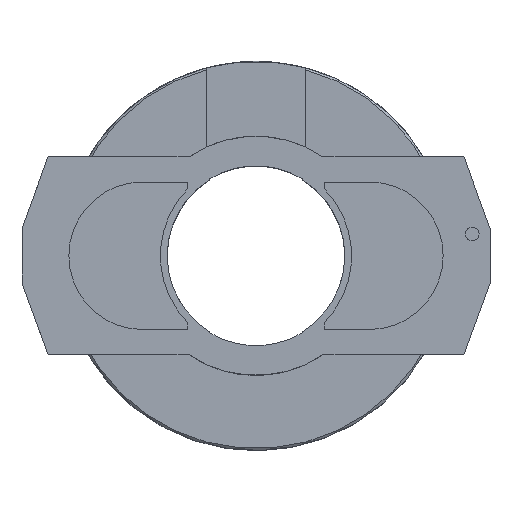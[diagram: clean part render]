
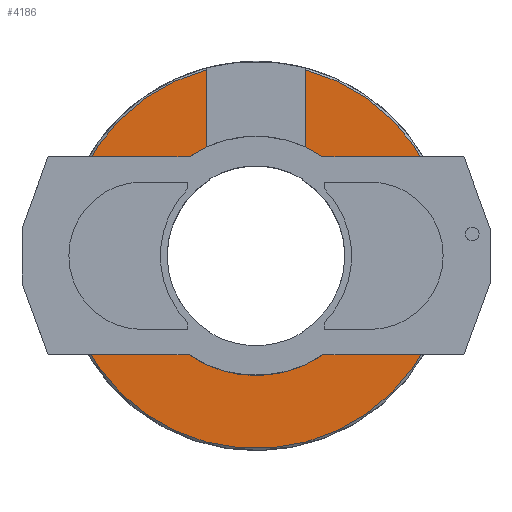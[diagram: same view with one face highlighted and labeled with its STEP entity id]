
A CAD part, top view. The second image highlights one B-rep face of the part: STEP entity #4186.
In plain terms, the highlighted planar face has unit normal (0, 0, 1).
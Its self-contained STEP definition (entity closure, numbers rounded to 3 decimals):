
#776 = PLANE('',#777);
#777 = AXIS2_PLACEMENT_3D('',#778,#779,#780);
#778 = CARTESIAN_POINT('',(7.25,5.,12.));
#779 = DIRECTION('',(1.,0.,-0.));
#780 = DIRECTION('',(0.,0.,1.));
#1295 = CYLINDRICAL_SURFACE('',#1296,17.5);
#1296 = AXIS2_PLACEMENT_3D('',#1297,#1298,#1299);
#1297 = CARTESIAN_POINT('',(0.,0.,13.));
#1298 = DIRECTION('',(0.,0.,1.));
#1299 = DIRECTION('',(1.,0.,-0.));
#1375 = VERTEX_POINT('',#1376);
#1376 = CARTESIAN_POINT('',(-7.25,15.928,13.));
#1392 = PLANE('',#1393);
#1393 = AXIS2_PLACEMENT_3D('',#1394,#1395,#1396);
#1394 = CARTESIAN_POINT('',(-7.25,5.,12.));
#1395 = DIRECTION('',(1.,0.,-0.));
#1396 = DIRECTION('',(0.,0.,1.));
#1404 = EDGE_CURVE('',#1375,#1405,#1407,.T.);
#1405 = VERTEX_POINT('',#1406);
#1406 = CARTESIAN_POINT('',(17.5,0.,13.));
#1407 = SURFACE_CURVE('',#1408,(#1413,#1420),.PCURVE_S1.);
#1408 = CIRCLE('',#1409,17.5);
#1409 = AXIS2_PLACEMENT_3D('',#1410,#1411,#1412);
#1410 = CARTESIAN_POINT('',(0.,0.,13.));
#1411 = DIRECTION('',(0.,0.,1.));
#1412 = DIRECTION('',(1.,0.,-0.));
#1413 = PCURVE('',#1295,#1414);
#1414 = DEFINITIONAL_REPRESENTATION('',(#1415),#1419);
#1415 = LINE('',#1416,#1417);
#1416 = CARTESIAN_POINT('',(0.,0.));
#1417 = VECTOR('',#1418,1.);
#1418 = DIRECTION('',(1.,0.));
#1419 = ( GEOMETRIC_REPRESENTATION_CONTEXT(2) 
PARAMETRIC_REPRESENTATION_CONTEXT() REPRESENTATION_CONTEXT('2D SPACE',''
  ) );
#1420 = PCURVE('',#1421,#1426);
#1421 = PLANE('',#1422);
#1422 = AXIS2_PLACEMENT_3D('',#1423,#1424,#1425);
#1423 = CARTESIAN_POINT('',(0.,0.,13.));
#1424 = DIRECTION('',(0.,0.,1.));
#1425 = DIRECTION('',(1.,0.,-0.));
#1426 = DEFINITIONAL_REPRESENTATION('',(#1427),#1431);
#1427 = CIRCLE('',#1428,17.5);
#1428 = AXIS2_PLACEMENT_2D('',#1429,#1430);
#1429 = CARTESIAN_POINT('',(0.,0.));
#1430 = DIRECTION('',(1.,0.));
#1431 = ( GEOMETRIC_REPRESENTATION_CONTEXT(2) 
PARAMETRIC_REPRESENTATION_CONTEXT() REPRESENTATION_CONTEXT('2D SPACE',''
  ) );
#1689 = EDGE_CURVE('',#1405,#1690,#1692,.T.);
#1690 = VERTEX_POINT('',#1691);
#1691 = CARTESIAN_POINT('',(7.25,15.928,13.));
#1692 = SURFACE_CURVE('',#1693,(#1698,#1705),.PCURVE_S1.);
#1693 = CIRCLE('',#1694,17.5);
#1694 = AXIS2_PLACEMENT_3D('',#1695,#1696,#1697);
#1695 = CARTESIAN_POINT('',(0.,0.,13.));
#1696 = DIRECTION('',(0.,0.,1.));
#1697 = DIRECTION('',(1.,0.,-0.));
#1698 = PCURVE('',#1295,#1699);
#1699 = DEFINITIONAL_REPRESENTATION('',(#1700),#1704);
#1700 = LINE('',#1701,#1702);
#1701 = CARTESIAN_POINT('',(0.,0.));
#1702 = VECTOR('',#1703,1.);
#1703 = DIRECTION('',(1.,0.));
#1704 = ( GEOMETRIC_REPRESENTATION_CONTEXT(2) 
PARAMETRIC_REPRESENTATION_CONTEXT() REPRESENTATION_CONTEXT('2D SPACE',''
  ) );
#1705 = PCURVE('',#1421,#1706);
#1706 = DEFINITIONAL_REPRESENTATION('',(#1707),#1711);
#1707 = CIRCLE('',#1708,17.5);
#1708 = AXIS2_PLACEMENT_2D('',#1709,#1710);
#1709 = CARTESIAN_POINT('',(0.,0.));
#1710 = DIRECTION('',(1.,0.));
#1711 = ( GEOMETRIC_REPRESENTATION_CONTEXT(2) 
PARAMETRIC_REPRESENTATION_CONTEXT() REPRESENTATION_CONTEXT('2D SPACE',''
  ) );
#4186 = ADVANCED_FACE('',(#4187),#1421,.T.);
#4187 = FACE_BOUND('',#4188,.T.);
#4188 = EDGE_LOOP('',(#4189,#4220,#4241,#4242,#4243));
#4189 = ORIENTED_EDGE('',*,*,#4190,.T.);
#4190 = EDGE_CURVE('',#4191,#4193,#4195,.T.);
#4191 = VERTEX_POINT('',#4192);
#4192 = CARTESIAN_POINT('',(-7.25,27.252,13.));
#4193 = VERTEX_POINT('',#4194);
#4194 = CARTESIAN_POINT('',(7.25,27.252,13.));
#4195 = SURFACE_CURVE('',#4196,(#4201,#4208),.PCURVE_S1.);
#4196 = CIRCLE('',#4197,28.2);
#4197 = AXIS2_PLACEMENT_3D('',#4198,#4199,#4200);
#4198 = CARTESIAN_POINT('',(0.,0.,13.));
#4199 = DIRECTION('',(0.,0.,1.));
#4200 = DIRECTION('',(-0.257,0.966,0.));
#4201 = PCURVE('',#1421,#4202);
#4202 = DEFINITIONAL_REPRESENTATION('',(#4203),#4207);
#4203 = CIRCLE('',#4204,28.2);
#4204 = AXIS2_PLACEMENT_2D('',#4205,#4206);
#4205 = CARTESIAN_POINT('',(0.,0.));
#4206 = DIRECTION('',(-0.257,0.966));
#4207 = ( GEOMETRIC_REPRESENTATION_CONTEXT(2) 
PARAMETRIC_REPRESENTATION_CONTEXT() REPRESENTATION_CONTEXT('2D SPACE',''
  ) );
#4208 = PCURVE('',#4209,#4214);
#4209 = CONICAL_SURFACE('',#4210,28.5,0.785);
#4210 = AXIS2_PLACEMENT_3D('',#4211,#4212,#4213);
#4211 = CARTESIAN_POINT('',(0.,0.,12.7));
#4212 = DIRECTION('',(-0.,-0.,-1.));
#4213 = DIRECTION('',(1.,0.,-0.));
#4214 = DEFINITIONAL_REPRESENTATION('',(#4215),#4219);
#4215 = LINE('',#4216,#4217);
#4216 = CARTESIAN_POINT('',(-1.831,-0.3));
#4217 = VECTOR('',#4218,1.);
#4218 = DIRECTION('',(-1.,-0.));
#4219 = ( GEOMETRIC_REPRESENTATION_CONTEXT(2) 
PARAMETRIC_REPRESENTATION_CONTEXT() REPRESENTATION_CONTEXT('2D SPACE',''
  ) );
#4220 = ORIENTED_EDGE('',*,*,#4221,.F.);
#4221 = EDGE_CURVE('',#1690,#4193,#4222,.T.);
#4222 = SURFACE_CURVE('',#4223,(#4227,#4234),.PCURVE_S1.);
#4223 = LINE('',#4224,#4225);
#4224 = CARTESIAN_POINT('',(7.25,15.928,13.));
#4225 = VECTOR('',#4226,1.);
#4226 = DIRECTION('',(0.,1.,0.));
#4227 = PCURVE('',#1421,#4228);
#4228 = DEFINITIONAL_REPRESENTATION('',(#4229),#4233);
#4229 = LINE('',#4230,#4231);
#4230 = CARTESIAN_POINT('',(7.25,15.928));
#4231 = VECTOR('',#4232,1.);
#4232 = DIRECTION('',(0.,1.));
#4233 = ( GEOMETRIC_REPRESENTATION_CONTEXT(2) 
PARAMETRIC_REPRESENTATION_CONTEXT() REPRESENTATION_CONTEXT('2D SPACE',''
  ) );
#4234 = PCURVE('',#776,#4235);
#4235 = DEFINITIONAL_REPRESENTATION('',(#4236),#4240);
#4236 = LINE('',#4237,#4238);
#4237 = CARTESIAN_POINT('',(1.,-10.928));
#4238 = VECTOR('',#4239,1.);
#4239 = DIRECTION('',(0.,-1.));
#4240 = ( GEOMETRIC_REPRESENTATION_CONTEXT(2) 
PARAMETRIC_REPRESENTATION_CONTEXT() REPRESENTATION_CONTEXT('2D SPACE',''
  ) );
#4241 = ORIENTED_EDGE('',*,*,#1689,.F.);
#4242 = ORIENTED_EDGE('',*,*,#1404,.F.);
#4243 = ORIENTED_EDGE('',*,*,#4244,.F.);
#4244 = EDGE_CURVE('',#4191,#1375,#4245,.T.);
#4245 = SURFACE_CURVE('',#4246,(#4250,#4257),.PCURVE_S1.);
#4246 = LINE('',#4247,#4248);
#4247 = CARTESIAN_POINT('',(-7.25,27.252,13.));
#4248 = VECTOR('',#4249,1.);
#4249 = DIRECTION('',(0.,-1.,0.));
#4250 = PCURVE('',#1421,#4251);
#4251 = DEFINITIONAL_REPRESENTATION('',(#4252),#4256);
#4252 = LINE('',#4253,#4254);
#4253 = CARTESIAN_POINT('',(-7.25,27.252));
#4254 = VECTOR('',#4255,1.);
#4255 = DIRECTION('',(0.,-1.));
#4256 = ( GEOMETRIC_REPRESENTATION_CONTEXT(2) 
PARAMETRIC_REPRESENTATION_CONTEXT() REPRESENTATION_CONTEXT('2D SPACE',''
  ) );
#4257 = PCURVE('',#1392,#4258);
#4258 = DEFINITIONAL_REPRESENTATION('',(#4259),#4263);
#4259 = LINE('',#4260,#4261);
#4260 = CARTESIAN_POINT('',(1.,-22.252));
#4261 = VECTOR('',#4262,1.);
#4262 = DIRECTION('',(0.,1.));
#4263 = ( GEOMETRIC_REPRESENTATION_CONTEXT(2) 
PARAMETRIC_REPRESENTATION_CONTEXT() REPRESENTATION_CONTEXT('2D SPACE',''
  ) );
